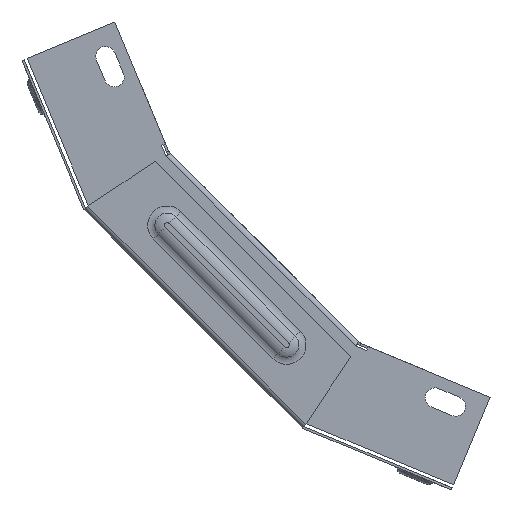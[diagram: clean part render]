
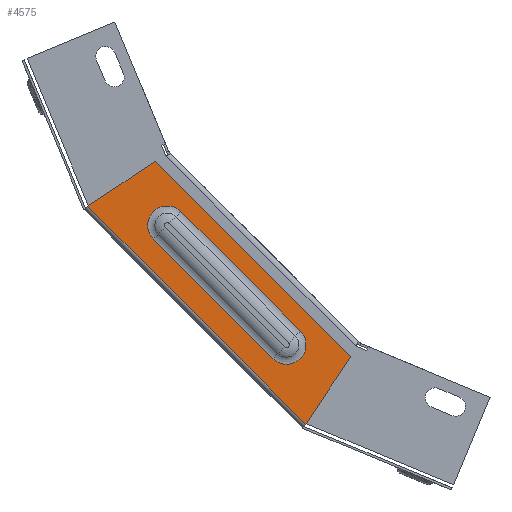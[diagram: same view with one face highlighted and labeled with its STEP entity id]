
A CAD part, left-side view. The second image highlights one B-rep face of the part: STEP entity #4575.
In plain terms, the highlighted planar face has unit normal (-1, 0, 0).
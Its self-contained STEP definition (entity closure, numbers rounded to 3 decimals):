
#136 = CARTESIAN_POINT ( 'NONE',  ( -25.8, 28.213, -70.64 ) ) ;
#426 = VERTEX_POINT ( 'NONE', #5373 ) ;
#631 = CIRCLE ( 'NONE', #6648, 6.917 ) ;
#878 = DIRECTION ( 'NONE',  ( 0., 0.556, -0.831 ) ) ;
#1059 = DIRECTION ( 'NONE',  ( 1., 0., 0. ) ) ;
#1067 = EDGE_CURVE ( 'NONE', #12451, #11148, #6771, .T. ) ;
#1331 = VECTOR ( 'NONE', #3995, 1000. ) ;
#1345 = VECTOR ( 'NONE', #878, 1000. ) ;
#1430 = VERTEX_POINT ( 'NONE', #8608 ) ;
#1578 = VERTEX_POINT ( 'NONE', #3949 ) ;
#1642 = CARTESIAN_POINT ( 'NONE',  ( -25.8, 21.389, -98.819 ) ) ;
#1723 = EDGE_CURVE ( 'NONE', #11932, #1578, #631, .T. ) ;
#1820 = CARTESIAN_POINT ( 'NONE',  ( -25.8, 5.415, -74.912 ) ) ;
#1866 = EDGE_LOOP ( 'NONE', ( #7982, #12807, #9233, #5683 ) ) ;
#1949 = CARTESIAN_POINT ( 'NONE',  ( -25.8, 75.531, -33.104 ) ) ;
#2155 = CARTESIAN_POINT ( 'NONE',  ( -25.8, 65.749, -23.323 ) ) ;
#2199 = CARTESIAN_POINT ( 'NONE',  ( -25.8, 60.811, -60.811 ) ) ;
#2265 = VECTOR ( 'NONE', #7293, 1000. ) ;
#2805 = CARTESIAN_POINT ( 'NONE',  ( -25.8, 5.415, -74.912 ) ) ;
#2935 = VERTEX_POINT ( 'NONE', #1642 ) ;
#3242 = CARTESIAN_POINT ( 'NONE',  ( -25.8, 65.749, -23.323 ) ) ;
#3354 = LINE ( 'NONE', #11301, #2265 ) ;
#3506 = EDGE_CURVE ( 'NONE', #1430, #11913, #9416, .T. ) ;
#3949 = CARTESIAN_POINT ( 'NONE',  ( -25.8, 33.104, -75.531 ) ) ;
#3995 = DIRECTION ( 'NONE',  ( 0., 0.707, 0.707 ) ) ;
#4069 = CARTESIAN_POINT ( 'NONE',  ( -25.8, 74.912, -5.415 ) ) ;
#4206 = PLANE ( 'NONE',  #11696 ) ;
#4575 = ADVANCED_FACE ( 'NONE', ( #7683, #5520 ), #4206, .F. ) ;
#5373 = CARTESIAN_POINT ( 'NONE',  ( -25.8, 98.819, -21.389 ) ) ;
#5520 = FACE_OUTER_BOUND ( 'NONE', #7395, .T. ) ;
#5683 = ORIENTED_EDGE ( 'NONE', *, *, #1723, .T. ) ;
#5730 = DIRECTION ( 'NONE',  ( 0., -0.707, -0.707 ) ) ;
#6024 = EDGE_CURVE ( 'NONE', #11913, #11932, #9279, .T. ) ;
#6250 = LINE ( 'NONE', #10008, #1331 ) ;
#6255 = EDGE_CURVE ( 'NONE', #12451, #2935, #8657, .T. ) ;
#6381 = AXIS2_PLACEMENT_3D ( 'NONE', #10021, #9977, #10911 ) ;
#6423 = EDGE_CURVE ( 'NONE', #426, #11148, #3354, .T. ) ;
#6648 = AXIS2_PLACEMENT_3D ( 'NONE', #136, #9044, #10946 ) ;
#6771 = LINE ( 'NONE', #7984, #11152 ) ;
#7056 = DIRECTION ( 'NONE',  ( 0., 0.707, 0.707 ) ) ;
#7293 = DIRECTION ( 'NONE',  ( 0., -0.831, 0.556 ) ) ;
#7395 = EDGE_LOOP ( 'NONE', ( #12531, #10079, #9637, #9663 ) ) ;
#7615 = VECTOR ( 'NONE', #10899, 1000. ) ;
#7683 = FACE_BOUND ( 'NONE', #1866, .T. ) ;
#7982 = ORIENTED_EDGE ( 'NONE', *, *, #12500, .T. ) ;
#7984 = CARTESIAN_POINT ( 'NONE',  ( -25.8, 40.164, -40.164 ) ) ;
#7985 = DIRECTION ( 'NONE',  ( 0., 1., 0. ) ) ;
#8183 = VECTOR ( 'NONE', #5730, 1000. ) ;
#8608 = CARTESIAN_POINT ( 'NONE',  ( -25.8, 75.531, -33.104 ) ) ;
#8657 = LINE ( 'NONE', #2805, #1345 ) ;
#9044 = DIRECTION ( 'NONE',  ( 1., 0., 0. ) ) ;
#9233 = ORIENTED_EDGE ( 'NONE', *, *, #6024, .T. ) ;
#9279 = LINE ( 'NONE', #3242, #8183 ) ;
#9416 = CIRCLE ( 'NONE', #6381, 6.917 ) ;
#9637 = ORIENTED_EDGE ( 'NONE', *, *, #6423, .F. ) ;
#9663 = ORIENTED_EDGE ( 'NONE', *, *, #9668, .F. ) ;
#9668 = EDGE_CURVE ( 'NONE', #2935, #426, #6250, .T. ) ;
#9977 = DIRECTION ( 'NONE',  ( 1., 0., 0. ) ) ;
#10008 = CARTESIAN_POINT ( 'NONE',  ( -25.8, 98.819, -21.389 ) ) ;
#10021 = CARTESIAN_POINT ( 'NONE',  ( -25.8, 70.64, -28.213 ) ) ;
#10079 = ORIENTED_EDGE ( 'NONE', *, *, #1067, .T. ) ;
#10272 = LINE ( 'NONE', #1949, #7615 ) ;
#10899 = DIRECTION ( 'NONE',  ( 0., 0.707, 0.707 ) ) ;
#10911 = DIRECTION ( 'NONE',  ( 0., -0.707, -0.707 ) ) ;
#10946 = DIRECTION ( 'NONE',  ( 0., -0.707, -0.707 ) ) ;
#11013 = CARTESIAN_POINT ( 'NONE',  ( -25.8, 23.323, -65.749 ) ) ;
#11148 = VERTEX_POINT ( 'NONE', #4069 ) ;
#11152 = VECTOR ( 'NONE', #7056, 1000. ) ;
#11301 = CARTESIAN_POINT ( 'NONE',  ( -25.8, 74.912, -5.415 ) ) ;
#11696 = AXIS2_PLACEMENT_3D ( 'NONE', #2199, #1059, #7985 ) ;
#11913 = VERTEX_POINT ( 'NONE', #2155 ) ;
#11932 = VERTEX_POINT ( 'NONE', #11013 ) ;
#12451 = VERTEX_POINT ( 'NONE', #1820 ) ;
#12500 = EDGE_CURVE ( 'NONE', #1578, #1430, #10272, .T. ) ;
#12531 = ORIENTED_EDGE ( 'NONE', *, *, #6255, .F. ) ;
#12807 = ORIENTED_EDGE ( 'NONE', *, *, #3506, .T. ) ;
